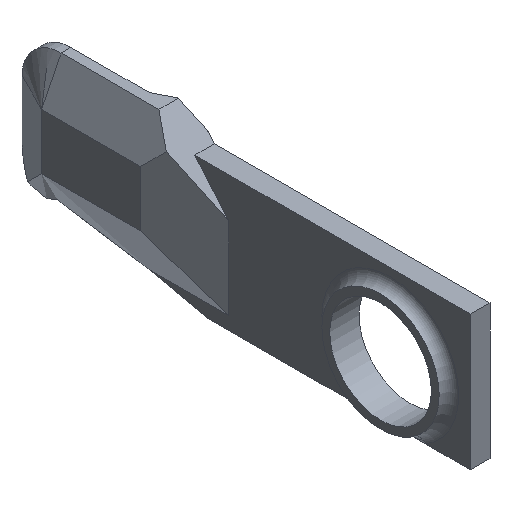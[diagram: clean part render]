
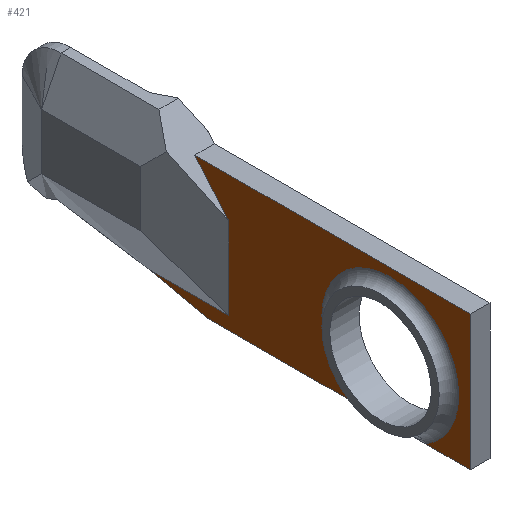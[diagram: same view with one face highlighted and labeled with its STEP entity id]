
A CAD part, isometric view. The second image highlights one B-rep face of the part: STEP entity #421.
In plain terms, the highlighted planar face has unit normal (-1, 0, 0).
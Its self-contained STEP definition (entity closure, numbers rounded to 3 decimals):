
#20=PLANE('',#463);
#45=LINE('',#702,#91);
#46=LINE('',#704,#92);
#47=LINE('',#706,#93);
#48=LINE('',#708,#94);
#49=LINE('',#710,#95);
#50=LINE('',#712,#96);
#51=LINE('',#714,#97);
#52=LINE('',#715,#98);
#91=VECTOR('',#511,10.);
#92=VECTOR('',#512,10.);
#93=VECTOR('',#513,10.);
#94=VECTOR('',#514,10.);
#95=VECTOR('',#515,10.);
#96=VECTOR('',#516,10.);
#97=VECTOR('',#517,10.);
#98=VECTOR('',#518,10.);
#141=FACE_OUTER_BOUND('',#166,.T.);
#166=EDGE_LOOP('',(#309,#310,#311,#312,#313,#314,#315,#316,#317));
#192=CIRCLE('',#460,3.5);
#199=VERTEX_POINT('',#611);
#202=VERTEX_POINT('',#616);
#204=VERTEX_POINT('',#701);
#205=VERTEX_POINT('',#703);
#206=VERTEX_POINT('',#705);
#207=VERTEX_POINT('',#707);
#208=VERTEX_POINT('',#709);
#209=VERTEX_POINT('',#711);
#210=VERTEX_POINT('',#713);
#239=EDGE_CURVE('',#202,#199,#192,.T.);
#245=EDGE_CURVE('',#202,#204,#45,.T.);
#246=EDGE_CURVE('',#204,#205,#46,.T.);
#247=EDGE_CURVE('',#205,#206,#47,.T.);
#248=EDGE_CURVE('',#207,#206,#48,.F.);
#249=EDGE_CURVE('',#208,#207,#49,.T.);
#250=EDGE_CURVE('',#209,#208,#50,.F.);
#251=EDGE_CURVE('',#210,#209,#51,.T.);
#252=EDGE_CURVE('',#210,#199,#52,.T.);
#309=ORIENTED_EDGE('',*,*,#239,.F.);
#310=ORIENTED_EDGE('',*,*,#245,.T.);
#311=ORIENTED_EDGE('',*,*,#246,.T.);
#312=ORIENTED_EDGE('',*,*,#247,.T.);
#313=ORIENTED_EDGE('',*,*,#248,.F.);
#314=ORIENTED_EDGE('',*,*,#249,.F.);
#315=ORIENTED_EDGE('',*,*,#250,.F.);
#316=ORIENTED_EDGE('',*,*,#251,.F.);
#317=ORIENTED_EDGE('',*,*,#252,.T.);
#421=ADVANCED_FACE('',(#141),#20,.T.);
#460=AXIS2_PLACEMENT_3D('',#618,#501,#502);
#463=AXIS2_PLACEMENT_3D('',#700,#509,#510);
#501=DIRECTION('center_axis',(-1.,0.,0.));
#502=DIRECTION('ref_axis',(0.,0.,1.));
#509=DIRECTION('center_axis',(-1.,0.,0.));
#510=DIRECTION('ref_axis',(0.,-1.,0.));
#511=DIRECTION('',(0.,-1.,0.));
#512=DIRECTION('',(0.,0.,1.));
#513=DIRECTION('',(0.,1.,0.));
#514=DIRECTION('',(0.,-0.643,-0.766));
#515=DIRECTION('',(0.,0.,1.));
#516=DIRECTION('',(0.,1.,0.));
#517=DIRECTION('',(0.,0.976,0.217));
#518=DIRECTION('',(0.,-1.,0.));
#611=CARTESIAN_POINT('',(-6.,-395.197,-2.5));
#616=CARTESIAN_POINT('',(-6.,-398.803,-2.5));
#618=CARTESIAN_POINT('Origin',(-6.,-397.,0.5));
#700=CARTESIAN_POINT('Origin',(-6.,0.,0.));
#701=CARTESIAN_POINT('',(-6.,-401.1,-2.5));
#702=CARTESIAN_POINT('',(-6.,-189.329,-2.5));
#703=CARTESIAN_POINT('',(-6.,-401.1,4.4));
#704=CARTESIAN_POINT('',(-6.,-401.1,-1.25));
#705=CARTESIAN_POINT('',(-6.,-387.,4.4));
#706=CARTESIAN_POINT('',(-6.,-200.55,4.4));
#707=CARTESIAN_POINT('',(-6.,-388.724,2.346));
#708=CARTESIAN_POINT('',(-6.,-307.462,99.189));
#709=CARTESIAN_POINT('',(-6.,-388.724,-1.848));
#710=CARTESIAN_POINT('',(-6.,-388.724,-1.109));
#711=CARTESIAN_POINT('',(-6.,-384.724,-1.848));
#712=CARTESIAN_POINT('',(-6.,-194.612,-1.848));
#713=CARTESIAN_POINT('',(-6.,-387.657,-2.5));
#714=CARTESIAN_POINT('',(-6.,-202.685,38.605));
#715=CARTESIAN_POINT('',(-6.,-189.329,-2.5));
